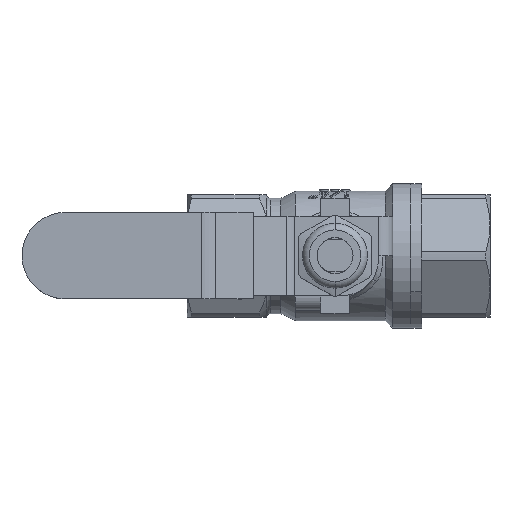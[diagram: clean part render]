
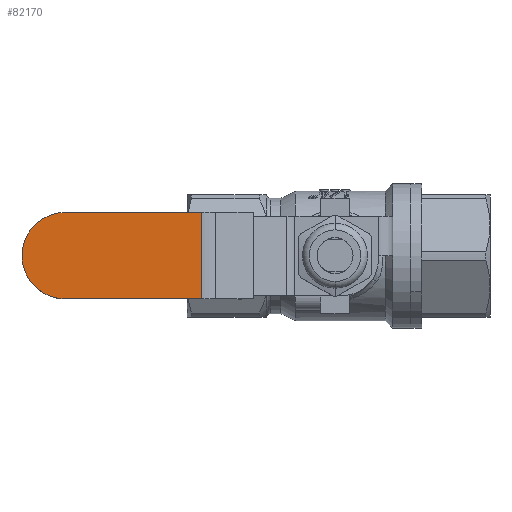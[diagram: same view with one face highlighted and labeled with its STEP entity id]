
A CAD part, top view. The second image highlights one B-rep face of the part: STEP entity #82170.
In plain terms, the highlighted planar face has unit normal (0, 0, 1).
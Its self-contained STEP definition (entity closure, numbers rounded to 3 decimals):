
#81954 = PLANE('',#81955);
#81955 = AXIS2_PLACEMENT_3D('',#81956,#81957,#81958);
#81956 = CARTESIAN_POINT('',(-19.186,-13.674,
    22.856));
#81957 = DIRECTION('',(0.,1.,0.));
#81958 = DIRECTION('',(-1.,0.,0.));
#82015 = PLANE('',#82016);
#82016 = AXIS2_PLACEMENT_3D('',#82017,#82018,#82019);
#82017 = CARTESIAN_POINT('',(-19.186,-1.674,
    22.856));
#82018 = DIRECTION('',(0.,1.,0.));
#82019 = DIRECTION('',(-1.,0.,0.));
#82104 = CYLINDRICAL_SURFACE('',#82105,6.);
#82105 = AXIS2_PLACEMENT_3D('',#82106,#82107,#82108);
#82106 = CARTESIAN_POINT('',(-37.425,-7.674,
    28.356));
#82107 = DIRECTION('',(0.,0.,1.));
#82108 = DIRECTION('',(0.,1.,0.));
#82137 = CYLINDRICAL_SURFACE('',#82138,6.);
#82138 = AXIS2_PLACEMENT_3D('',#82139,#82140,#82141);
#82139 = CARTESIAN_POINT('',(-37.425,-7.674,
    22.856));
#82140 = DIRECTION('',(0.,0.,-1.));
#82141 = DIRECTION('',(0.,-1.,0.));
#82170 = ADVANCED_FACE('',(#82171),#82186,.F.);
#82171 = FACE_BOUND('',#82172,.T.);
#82172 = EDGE_LOOP('',(#82173,#82208,#82236,#82259,#82287));
#82173 = ORIENTED_EDGE('',*,*,#82174,.T.);
#82174 = EDGE_CURVE('',#82175,#82177,#82179,.T.);
#82175 = VERTEX_POINT('',#82176);
#82176 = CARTESIAN_POINT('',(-37.425,-1.674,
    28.356));
#82177 = VERTEX_POINT('',#82178);
#82178 = CARTESIAN_POINT('',(-43.425,-7.674,
    28.356));
#82179 = SURFACE_CURVE('',#82180,(#82185,#82201),.PCURVE_S1.);
#82180 = CIRCLE('',#82181,6.);
#82181 = AXIS2_PLACEMENT_3D('',#82182,#82183,#82184);
#82182 = CARTESIAN_POINT('',(-37.425,-7.674,
    28.356));
#82183 = DIRECTION('',(0.,0.,1.));
#82184 = DIRECTION('',(-1.,0.,0.));
#82185 = PCURVE('',#82186,#82191);
#82186 = PLANE('',#82187);
#82187 = AXIS2_PLACEMENT_3D('',#82188,#82189,#82190);
#82188 = CARTESIAN_POINT('',(-43.425,-1.674,
    28.356));
#82189 = DIRECTION('',(0.,0.,-1.));
#82190 = DIRECTION('',(-1.,0.,0.));
#82191 = DEFINITIONAL_REPRESENTATION('',(#82192),#82200);
#82192 = ( BOUNDED_CURVE() B_SPLINE_CURVE(2,(#82193,#82194,#82195,#82196
    ,#82197,#82198,#82199),.UNSPECIFIED.,.T.,.F.) 
B_SPLINE_CURVE_WITH_KNOTS((1,2,2,2,2,1),(-2.094,0.,
    2.094,4.189,6.283,8.378),
.UNSPECIFIED.) CURVE() GEOMETRIC_REPRESENTATION_ITEM() 
RATIONAL_B_SPLINE_CURVE((1.,0.5,1.,0.5,1.,0.5,1.)) REPRESENTATION_ITEM(
  '') );
#82193 = CARTESIAN_POINT('',(0.,-6.));
#82194 = CARTESIAN_POINT('',(0.,-16.392));
#82195 = CARTESIAN_POINT('',(-9.,-11.196));
#82196 = CARTESIAN_POINT('',(-18.,-6.));
#82197 = CARTESIAN_POINT('',(-9.,-0.804));
#82198 = CARTESIAN_POINT('',(0.,4.392));
#82199 = CARTESIAN_POINT('',(0.,-6.));
#82200 = ( GEOMETRIC_REPRESENTATION_CONTEXT(2) 
PARAMETRIC_REPRESENTATION_CONTEXT() REPRESENTATION_CONTEXT('2D SPACE',''
  ) );
#82201 = PCURVE('',#82137,#82202);
#82202 = DEFINITIONAL_REPRESENTATION('',(#82203),#82207);
#82203 = LINE('',#82204,#82205);
#82204 = CARTESIAN_POINT('',(7.854,-5.5));
#82205 = VECTOR('',#82206,1.);
#82206 = DIRECTION('',(-1.,0.));
#82207 = ( GEOMETRIC_REPRESENTATION_CONTEXT(2) 
PARAMETRIC_REPRESENTATION_CONTEXT() REPRESENTATION_CONTEXT('2D SPACE',''
  ) );
#82208 = ORIENTED_EDGE('',*,*,#82209,.T.);
#82209 = EDGE_CURVE('',#82177,#82210,#82212,.T.);
#82210 = VERTEX_POINT('',#82211);
#82211 = CARTESIAN_POINT('',(-37.425,-13.674,
    28.356));
#82212 = SURFACE_CURVE('',#82213,(#82218,#82229),.PCURVE_S1.);
#82213 = CIRCLE('',#82214,6.);
#82214 = AXIS2_PLACEMENT_3D('',#82215,#82216,#82217);
#82215 = CARTESIAN_POINT('',(-37.425,-7.674,
    28.356));
#82216 = DIRECTION('',(0.,0.,1.));
#82217 = DIRECTION('',(-1.,0.,0.));
#82218 = PCURVE('',#82186,#82219);
#82219 = DEFINITIONAL_REPRESENTATION('',(#82220),#82228);
#82220 = ( BOUNDED_CURVE() B_SPLINE_CURVE(2,(#82221,#82222,#82223,#82224
    ,#82225,#82226,#82227),.UNSPECIFIED.,.T.,.F.) 
B_SPLINE_CURVE_WITH_KNOTS((1,2,2,2,2,1),(-2.094,0.,
    2.094,4.189,6.283,8.378),
.UNSPECIFIED.) CURVE() GEOMETRIC_REPRESENTATION_ITEM() 
RATIONAL_B_SPLINE_CURVE((1.,0.5,1.,0.5,1.,0.5,1.)) REPRESENTATION_ITEM(
  '') );
#82221 = CARTESIAN_POINT('',(0.,-6.));
#82222 = CARTESIAN_POINT('',(0.,-16.392));
#82223 = CARTESIAN_POINT('',(-9.,-11.196));
#82224 = CARTESIAN_POINT('',(-18.,-6.));
#82225 = CARTESIAN_POINT('',(-9.,-0.804));
#82226 = CARTESIAN_POINT('',(0.,4.392));
#82227 = CARTESIAN_POINT('',(0.,-6.));
#82228 = ( GEOMETRIC_REPRESENTATION_CONTEXT(2) 
PARAMETRIC_REPRESENTATION_CONTEXT() REPRESENTATION_CONTEXT('2D SPACE',''
  ) );
#82229 = PCURVE('',#82104,#82230);
#82230 = DEFINITIONAL_REPRESENTATION('',(#82231),#82235);
#82231 = LINE('',#82232,#82233);
#82232 = CARTESIAN_POINT('',(1.571,0.));
#82233 = VECTOR('',#82234,1.);
#82234 = DIRECTION('',(1.,0.));
#82235 = ( GEOMETRIC_REPRESENTATION_CONTEXT(2) 
PARAMETRIC_REPRESENTATION_CONTEXT() REPRESENTATION_CONTEXT('2D SPACE',''
  ) );
#82236 = ORIENTED_EDGE('',*,*,#82237,.T.);
#82237 = EDGE_CURVE('',#82210,#82238,#82240,.T.);
#82238 = VERTEX_POINT('',#82239);
#82239 = CARTESIAN_POINT('',(-18.556,-13.674,
    28.356));
#82240 = SURFACE_CURVE('',#82241,(#82245,#82252),.PCURVE_S1.);
#82241 = LINE('',#82242,#82243);
#82242 = CARTESIAN_POINT('',(-43.425,-13.674,
    28.356));
#82243 = VECTOR('',#82244,1.);
#82244 = DIRECTION('',(1.,0.,0.));
#82245 = PCURVE('',#82186,#82246);
#82246 = DEFINITIONAL_REPRESENTATION('',(#82247),#82251);
#82247 = LINE('',#82248,#82249);
#82248 = CARTESIAN_POINT('',(0.,-12.));
#82249 = VECTOR('',#82250,1.);
#82250 = DIRECTION('',(-1.,0.));
#82251 = ( GEOMETRIC_REPRESENTATION_CONTEXT(2) 
PARAMETRIC_REPRESENTATION_CONTEXT() REPRESENTATION_CONTEXT('2D SPACE',''
  ) );
#82252 = PCURVE('',#81954,#82253);
#82253 = DEFINITIONAL_REPRESENTATION('',(#82254),#82258);
#82254 = LINE('',#82255,#82256);
#82255 = CARTESIAN_POINT('',(24.239,5.5));
#82256 = VECTOR('',#82257,1.);
#82257 = DIRECTION('',(-1.,0.));
#82258 = ( GEOMETRIC_REPRESENTATION_CONTEXT(2) 
PARAMETRIC_REPRESENTATION_CONTEXT() REPRESENTATION_CONTEXT('2D SPACE',''
  ) );
#82259 = ORIENTED_EDGE('',*,*,#82260,.F.);
#82260 = EDGE_CURVE('',#82261,#82238,#82263,.T.);
#82261 = VERTEX_POINT('',#82262);
#82262 = CARTESIAN_POINT('',(-18.556,-1.674,
    28.356));
#82263 = SURFACE_CURVE('',#82264,(#82268,#82275),.PCURVE_S1.);
#82264 = LINE('',#82265,#82266);
#82265 = CARTESIAN_POINT('',(-18.556,-1.674,
    28.356));
#82266 = VECTOR('',#82267,1.);
#82267 = DIRECTION('',(0.,-1.,0.));
#82268 = PCURVE('',#82186,#82269);
#82269 = DEFINITIONAL_REPRESENTATION('',(#82270),#82274);
#82270 = LINE('',#82271,#82272);
#82271 = CARTESIAN_POINT('',(-24.869,0.));
#82272 = VECTOR('',#82273,1.);
#82273 = DIRECTION('',(0.,-1.));
#82274 = ( GEOMETRIC_REPRESENTATION_CONTEXT(2) 
PARAMETRIC_REPRESENTATION_CONTEXT() REPRESENTATION_CONTEXT('2D SPACE',''
  ) );
#82275 = PCURVE('',#82276,#82281);
#82276 = CYLINDRICAL_SURFACE('',#82277,3.5);
#82277 = AXIS2_PLACEMENT_3D('',#82278,#82279,#82280);
#82278 = CARTESIAN_POINT('',(-18.556,-1.674,
    24.856));
#82279 = DIRECTION('',(0.,-1.,0.));
#82280 = DIRECTION('',(1.,0.,0.));
#82281 = DEFINITIONAL_REPRESENTATION('',(#82282),#82286);
#82282 = LINE('',#82283,#82284);
#82283 = CARTESIAN_POINT('',(1.571,0.));
#82284 = VECTOR('',#82285,1.);
#82285 = DIRECTION('',(0.,1.));
#82286 = ( GEOMETRIC_REPRESENTATION_CONTEXT(2) 
PARAMETRIC_REPRESENTATION_CONTEXT() REPRESENTATION_CONTEXT('2D SPACE',''
  ) );
#82287 = ORIENTED_EDGE('',*,*,#82288,.F.);
#82288 = EDGE_CURVE('',#82175,#82261,#82289,.T.);
#82289 = SURFACE_CURVE('',#82290,(#82294,#82301),.PCURVE_S1.);
#82290 = LINE('',#82291,#82292);
#82291 = CARTESIAN_POINT('',(-43.425,-1.674,
    28.356));
#82292 = VECTOR('',#82293,1.);
#82293 = DIRECTION('',(1.,0.,0.));
#82294 = PCURVE('',#82186,#82295);
#82295 = DEFINITIONAL_REPRESENTATION('',(#82296),#82300);
#82296 = LINE('',#82297,#82298);
#82297 = CARTESIAN_POINT('',(0.,0.));
#82298 = VECTOR('',#82299,1.);
#82299 = DIRECTION('',(-1.,0.));
#82300 = ( GEOMETRIC_REPRESENTATION_CONTEXT(2) 
PARAMETRIC_REPRESENTATION_CONTEXT() REPRESENTATION_CONTEXT('2D SPACE',''
  ) );
#82301 = PCURVE('',#82015,#82302);
#82302 = DEFINITIONAL_REPRESENTATION('',(#82303),#82307);
#82303 = LINE('',#82304,#82305);
#82304 = CARTESIAN_POINT('',(24.239,5.5));
#82305 = VECTOR('',#82306,1.);
#82306 = DIRECTION('',(-1.,0.));
#82307 = ( GEOMETRIC_REPRESENTATION_CONTEXT(2) 
PARAMETRIC_REPRESENTATION_CONTEXT() REPRESENTATION_CONTEXT('2D SPACE',''
  ) );
